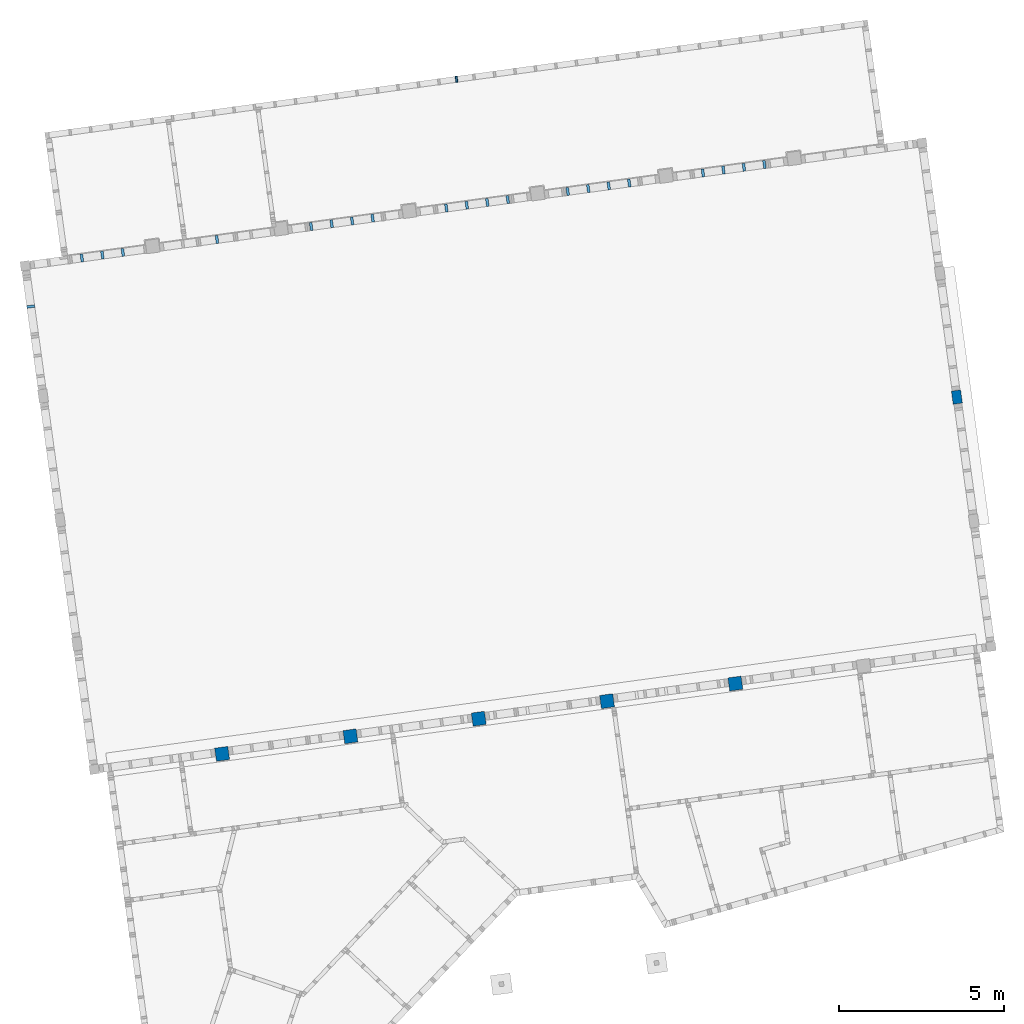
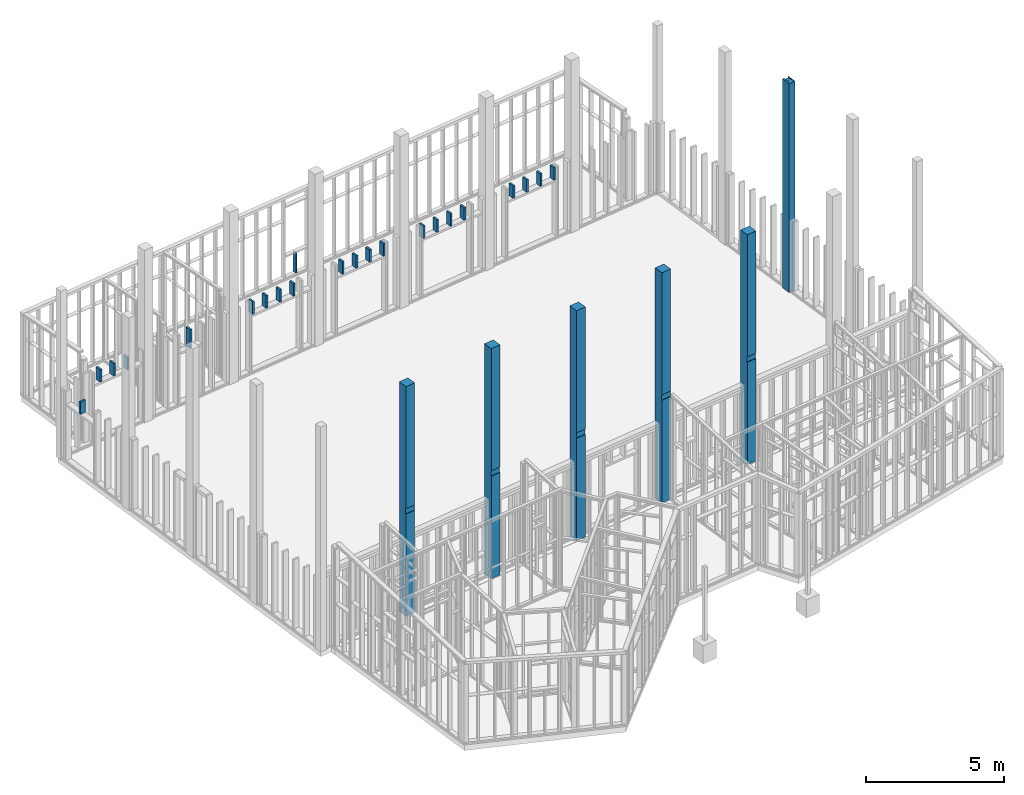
# One storey, part 9 of 24: 28 columns.
"""IFC2X3 building model written with IfcOpenShell, lengths in metres."""

import ifcopenshell
import ifcopenshell.guid

model = None  # the IFC model being written
_history = None  # IfcOwnerHistory: only IFC2X3 demands one
_inside = {}  # id of a spatial element -> (the spatial element, [elements in it])
_under = {}  # id of a project, library or spatial element -> (it, [spatial elements below it])
_declared = {}  # id of a project -> (the project, [libraries it declares])
_typed = {}  # id of a type object -> (the type object, [elements of that type])
_made_of = {}  # id of a material, layer set ... -> (it, [elements and type objects made of it])


def new_model(schema):
    """Start an empty IFC model of exactly this schema.

    Asked for "IFC4X3", IfcOpenShell would pick the latest addendum, in which some entities
    have other attributes; the version numbers below select the first issue.
    IFC2X3 requires an IfcOwnerHistory on every rooted entity: one is made here for all.
    """
    global model, _history
    if schema == "IFC4X3":
        model = ifcopenshell.file(schema_version=(4, 3, 0, 0))
    else:
        model = ifcopenshell.file(schema=schema)
    _inside.clear()
    _under.clear()
    _declared.clear()
    _typed.clear()
    _made_of.clear()
    _history = None
    if model.schema == "IFC2X3":
        org = make("IfcOrganization", Name="unknown")
        user = make(
            "IfcPersonAndOrganization",
            ThePerson=make("IfcPerson", FamilyName="unknown"),
            TheOrganization=org,
        )
        app = make(
            "IfcApplication",
            ApplicationDeveloper=org,
            Version="unknown",
            ApplicationFullName="unknown",
            ApplicationIdentifier="unknown",
        )
        _history = make(
            "IfcOwnerHistory",
            OwningUser=user,
            OwningApplication=app,
            ChangeAction="ADDED",
            CreationDate=0,
        )
    return model


def make(cls, **values):
    """One entity of the class cls with the attributes given. An attribute that is None is left unset."""
    return model.create_entity(
        cls, **{name: value for name, value in values.items() if value is not None}
    )


def entity(cls, *values):
    """Any entity or typed value of the class cls, its attributes in the order of the schema. None: left unset."""
    e = model.create_entity(cls)
    for i, value in enumerate(values):
        if value is not None:
            e[i] = value
    return e


def rooted(cls, **values):
    """An entity with a GlobalId (a new one), such as an element, a storey or a relation."""
    return make(cls, GlobalId=ifcopenshell.guid.new(), OwnerHistory=_history, **values)


def si_unit(unit_type, name, prefix=None):
    """IfcSIUnit, for example si_unit("LENGTHUNIT", "METRE", prefix="MILLI")."""
    return make("IfcSIUnit", UnitType=unit_type, Prefix=prefix, Name=name)


def converted_unit(unit_type, name, factor, base, dimensions=None, offset=None):
    """IfcConversionBasedUnit, such as the inch: factor (a typed value) times the base unit."""
    return make(
        "IfcConversionBasedUnit"
        if offset is None
        else "IfcConversionBasedUnitWithOffset",
        ConversionOffset=offset,
        Dimensions=None
        if dimensions is None
        else entity("IfcDimensionalExponents", *dimensions),
        UnitType=unit_type,
        Name=name,
        ConversionFactor=make(
            "IfcMeasureWithUnit", ValueComponent=factor, UnitComponent=base
        ),
    )


def derived_unit(unit_type, elements):
    """IfcDerivedUnit: a product of units, each with its exponent."""
    return make(
        "IfcDerivedUnit",
        Elements=[
            make("IfcDerivedUnitElement", Unit=unit, Exponent=power)
            for unit, power in elements
        ],
        UnitType=unit_type,
    )


def money_unit(currency):
    """IfcMonetaryUnit."""
    return make("IfcMonetaryUnit", Currency=currency)


def assignment(units):
    """IfcUnitAssignment: the units of a project."""
    return None if units is None else make("IfcUnitAssignment", Units=units)


def point(xyz):
    """IfcCartesianPoint."""
    return None if xyz is None else make("IfcCartesianPoint", Coordinates=xyz)


def direction(xyz):
    """IfcDirection."""
    return None if xyz is None else make("IfcDirection", DirectionRatios=xyz)


def frame(location, z_axis=None, x_axis=None):
    """IfcAxis2Placement3D, a coordinate frame: its origin and axes. An axis left out is left unset."""
    return make(
        "IfcAxis2Placement3D",
        Location=point(location),
        Axis=direction(z_axis),
        RefDirection=direction(x_axis),
    )


def frame_2d(location, x_axis=None):
    """IfcAxis2Placement2D, a coordinate frame in the plane: its origin and x axis."""
    return make(
        "IfcAxis2Placement2D", Location=point(location), RefDirection=direction(x_axis)
    )


def origin_with_axes():
    """The frame at (0, 0, 0) with the z axis (0, 0, 1) and the x axis (1, 0, 0) written out."""
    return frame((0.0, 0.0, 0.0), z_axis=(0.0, 0.0, 1.0), x_axis=(1.0, 0.0, 0.0))


def origin_2d_with_axis():
    """The frame at (0, 0) in the plane with the x axis (1, 0) written out."""
    return frame_2d((0.0, 0.0), x_axis=(1.0, 0.0))


def place(relative_to, where):
    """IfcLocalPlacement: puts the frame where relative to a parent placement (None: the world)."""
    return make(
        "IfcLocalPlacement", PlacementRelTo=relative_to, RelativePlacement=where
    )


def context(
    kind, dimensions, precision=None, world=None, true_north=None, identifier=None
):
    """IfcGeometricRepresentationContext, for example the 3D "Model" context."""
    return make(
        "IfcGeometricRepresentationContext",
        ContextIdentifier=identifier,
        ContextType=kind,
        CoordinateSpaceDimension=dimensions,
        Precision=precision,
        WorldCoordinateSystem=world,
        TrueNorth=true_north,
    )


def subcontext(parent, identifier, kind, view, scale=None):
    """IfcGeometricRepresentationSubContext, for example "Body" below "Model"."""
    return make(
        "IfcGeometricRepresentationSubContext",
        ContextIdentifier=identifier,
        ContextType=kind,
        ParentContext=parent,
        TargetScale=scale,
        TargetView=view,
    )


def project(units=None, contexts=None):
    """IfcProject with its units and contexts."""
    return rooted(
        "IfcProject",
        Name="project",
        RepresentationContexts=contexts,
        UnitsInContext=assignment(units),
    )


def spatial(cls, under=None, at=None, **own):
    """A site, building, storey or space (cls), placed at a placement, below another one or the project."""
    s = rooted(cls, ObjectPlacement=at, **own)
    if under is not None:
        _under.setdefault(under.id(), (under, []))[1].append(s)
    return s


def profile(cls, at=None, kind="AREA", **sizes):
    """A parametric profile (cls). Its sizes go by their IFC names, for example OverallWidth=200.0."""
    return make(cls, ProfileType=kind, Position=at, **sizes)


def rectangle(**sizes):
    """IfcRectangleProfileDef."""
    return profile("IfcRectangleProfileDef", **sizes)


def extrude(swept, where, along, depth):
    """IfcExtrudedAreaSolid: the profile swept, set in the frame where, extruded along a direction by depth."""
    return make(
        "IfcExtrudedAreaSolid",
        SweptArea=swept,
        Position=where,
        ExtrudedDirection=direction(along),
        Depth=depth,
    )


def boolean(op, a, b):
    """IfcBooleanResult of two solids."""
    return make("IfcBooleanResult", Operator=op, FirstOperand=a, SecondOperand=b)


def faces_of(points, faces, orient=None, outer=None):
    """IfcFace entities. A face is a list of loops; a loop is a list of indices into points, from 0.

    orient and outer hold one flag for each loop. By default every Orientation is true, the
    first loop of a face is its IfcFaceOuterBound and the others are IfcFaceBound.
    """
    made = []
    for i, loops in enumerate(faces):
        bounds = []
        for j, loop in enumerate(loops):
            is_outer = j == 0 if outer is None else outer[i][j]
            bounds.append(
                make(
                    "IfcFaceOuterBound" if is_outer else "IfcFaceBound",
                    Bound=make("IfcPolyLoop", Polygon=[points[k] for k in loop]),
                    Orientation=True if orient is None else orient[i][j],
                )
            )
        made.append(make("IfcFace", Bounds=bounds))
    return made


def faceted_brep(points, faces, orient=None, outer=None, voids=None):
    """IfcFacetedBrep: a solid bounded by flat faces; with voids (closed shells), ...WithVoids."""
    shared = [point(p) for p in points]
    hull = make("IfcClosedShell", CfsFaces=faces_of(shared, faces, orient, outer))
    if voids is None:
        return make("IfcFacetedBrep", Outer=hull)
    return make(
        "IfcFacetedBrepWithVoids",
        Outer=hull,
        Voids=[
            make(cls, CfsFaces=faces_of(shared, fs, o, b)) for cls, fs, o, b in voids
        ],
    )


def shape(context_of_items, identifier, shape_type, items):
    """IfcShapeRepresentation: the items that make up one representation, for example the "Body"."""
    return make(
        "IfcShapeRepresentation",
        ContextOfItems=context_of_items,
        RepresentationIdentifier=identifier,
        RepresentationType=shape_type,
        Items=items,
    )


def material(Name=None, Category=None):
    """IfcMaterial."""
    return make("IfcMaterial", Name=Name, Category=Category)


def made_of(thing, what):
    """Note that an element or type object is made of a material, layer set ...; save() writes the relation."""
    if what is not None:
        _made_of.setdefault(what.id(), (what, []))[1].append(thing)
    return thing


def type_object(cls, material=None, **own):
    """A type object (cls), such as IfcWallType, which elements share."""
    return made_of(rooted(cls, **own), material)


def element(
    cls,
    number,
    at=None,
    inside=None,
    cuts=None,
    type_object=None,
    material=None,
    context=None,
    identifier="Body",
    shape_type=None,
    held_by="IfcProductDefinitionShape",
    body=None,
    shapes=None,
    **own,
):
    """One element of the class cls, such as IfcWall. Its Tag is "e" and its number.

    at: its placement. inside: the storey or other place that contains it. cuts: it is an
    opening in that element (IfcRelVoidsElement). A single representation is given by context,
    identifier, shape_type and body (its items); several are given by shapes. held_by: the class
    of the entity that holds the representations. save() writes the other relations.
    """
    e = rooted(cls, Tag="e%d" % number, ObjectPlacement=at, **own)
    if body is not None:
        shapes = [shape(context, identifier, shape_type, body)]
    if shapes is not None:
        e.Representation = make(held_by, Representations=shapes)
    if inside is not None:
        _inside.setdefault(inside.id(), (inside, []))[1].append(e)
    if cuts is not None:
        rooted(
            "IfcRelVoidsElement", RelatingBuildingElement=cuts, RelatedOpeningElement=e
        )
    if type_object is not None:
        _typed.setdefault(type_object.id(), (type_object, []))[1].append(e)
    return made_of(e, material)


def aggregate(whole, parts):
    """IfcRelAggregates: a whole, such as a stair, and the parts it consists of."""
    return rooted("IfcRelAggregates", RelatingObject=whole, RelatedObjects=parts)


def save(model, path):
    """Write the relations noted so far, then the file.

    IfcRelAggregates (storeys below a building ...), IfcRelContainedInSpatialStructure (elements
    in a storey), IfcRelDefinesByType, IfcRelAssociatesMaterial and IfcRelDeclares: one each for
    every whole, place, type object, material and project.
    """
    for whole, parts in _under.values():
        aggregate(whole, parts)
    for where, things in _inside.values():
        rooted(
            "IfcRelContainedInSpatialStructure",
            RelatedElements=things,
            RelatingStructure=where,
        )
    for kind, things in _typed.values():
        rooted("IfcRelDefinesByType", RelatedObjects=things, RelatingType=kind)
    for what, things in _made_of.values():
        rooted("IfcRelAssociatesMaterial", RelatedObjects=things, RelatingMaterial=what)
    for by, libraries in _declared.values():
        rooted("IfcRelDeclares", RelatingContext=by, RelatedDefinitions=libraries)
    model.write(path)


model = new_model("IFC2X3")

# Units and contexts
model_context = context("Model", 3, precision=1e-05, world=origin_with_axes(), true_north=direction((0.0, 1.0)))
body_context = subcontext(model_context, "Body", "Model", "MODEL_VIEW")
ifc_project = project(units=[si_unit("LENGTHUNIT", "METRE"), si_unit("AREAUNIT", "SQUARE_METRE"), si_unit("VOLUMEUNIT", "CUBIC_METRE"), converted_unit("PLANEANGLEUNIT", "DEGREE", entity("IfcPlaneAngleMeasure", 0.0174532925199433), si_unit("PLANEANGLEUNIT", "RADIAN"), dimensions=[0, 0, 0, 0, 0, 0, 0]), money_unit("EUR"), converted_unit("TIMEUNIT", "Year", entity("IfcTimeMeasure", 31557600.0), si_unit("TIMEUNIT", "SECOND"), dimensions=[0, 0, 1, 0, 0, 0, 0]), si_unit("MASSUNIT", "GRAM", prefix="KILO"), si_unit("THERMODYNAMICTEMPERATUREUNIT", "DEGREE_CELSIUS"), si_unit("LUMINOUSINTENSITYUNIT", "LUMEN"), si_unit("ENERGYUNIT", "JOULE", prefix="MEGA"), derived_unit("THERMALCONDUCTANCEUNIT", [(si_unit("POWERUNIT", "WATT"), 1), (si_unit("LENGTHUNIT", "METRE"), -1), (si_unit("THERMODYNAMICTEMPERATUREUNIT", "KELVIN"), -1)]), derived_unit("SPECIFICHEATCAPACITYUNIT", [(si_unit("ENERGYUNIT", "JOULE"), 1), (si_unit("MASSUNIT", "GRAM", prefix="KILO"), -1), (si_unit("THERMODYNAMICTEMPERATUREUNIT", "KELVIN"), -1)]), derived_unit("MASSDENSITYUNIT", [(si_unit("MASSUNIT", "GRAM", prefix="KILO"), 1), (si_unit("VOLUMEUNIT", "CUBIC_METRE"), -1)])], contexts=[model_context])

# Site, building, storey
site_placement = place(None, origin_with_axes())
site = spatial("IfcSite", under=ifc_project, at=site_placement, Name="Gelände", CompositionType="ELEMENT")
building_placement = place(site_placement, origin_with_axes())
building = spatial("IfcBuilding", under=site, at=building_placement, Name="Gebäude", CompositionType="ELEMENT")
storey_placement = place(building_placement, origin_with_axes())
storey = spatial("IfcBuildingStorey", under=building, at=storey_placement, Name="EG", CompositionType="ELEMENT", Elevation=0.0)

# Columns
ifc_material_1 = material(Name="Holz, Brettschichtholz")
column_type_1 = type_object("IfcColumnType", Name="Holz, Brettschichtholz 400 x 400", PredefinedType="NOTDEFINED")
column_1_placement = place(storey_placement, frame((105.9718212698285, -148.421011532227, -0.1680000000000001), z_axis=(0.0, 0.0, 1.0), x_axis=(0.990748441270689, 0.1357111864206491, 0.0)))
element("IfcColumn", 1, at=column_1_placement, inside=storey, type_object=column_type_1, material=ifc_material_1, Name="Stütze-011", context=body_context, shape_type="CSG", body=[
    boolean("DIFFERENCE", extrude(rectangle(XDim=0.4, YDim=0.4, at=origin_2d_with_axis()), origin_with_axes(), (0.0, 0.0, 1.0), 10.1769335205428), faceted_brep([(0.2000000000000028, -0.1799999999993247, 4.534648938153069), (0.2000000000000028, -0.1799999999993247, 4.774648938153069), (0.1999999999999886, -0.1999999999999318, 4.774648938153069), (0.1999999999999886, -0.1999999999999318, 4.534648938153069), (-0.2000000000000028, -0.1799999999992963, 4.534648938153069), (-0.2000000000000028, -0.1799999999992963, 4.774648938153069), (-0.2000000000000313, -0.1999999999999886, 4.774648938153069), (-0.2000000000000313, -0.1999999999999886, 4.534648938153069)], [[[0, 1, 2, 3]], [[1, 0, 4, 5]], [[6, 2, 1, 5]], [[7, 3, 2, 6]], [[0, 3, 7, 4]], [[4, 7, 6, 5]]])),
])
column_2_placement = place(storey_placement, frame((98.21567633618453, -149.4834362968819, -0.1680000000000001), z_axis=(0.0, 0.0, 1.0), x_axis=(0.990748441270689, 0.1357111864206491, 0.0)))
element("IfcColumn", 2, at=column_2_placement, inside=storey, type_object=column_type_1, material=ifc_material_1, Name="Stütze-011", context=body_context, shape_type="CSG", body=[
    boolean("DIFFERENCE", extrude(rectangle(XDim=0.4, YDim=0.4, at=origin_2d_with_axis()), origin_with_axes(), (0.0, 0.0, 1.0), 10.1769335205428), faceted_brep([(0.1999999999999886, -0.1799999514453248, 4.534648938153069), (0.1999999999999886, -0.1799999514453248, 4.774648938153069), (0.2000000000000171, -0.1999999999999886, 4.774648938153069), (0.2000000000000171, -0.1999999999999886, 4.534648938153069), (-0.1999999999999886, -0.1799999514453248, 4.534648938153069), (-0.1999999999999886, -0.1799999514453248, 4.774648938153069), (-0.1999999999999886, -0.1999999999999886, 4.774648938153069), (-0.1999999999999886, -0.1999999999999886, 4.534648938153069)], [[[0, 1, 2, 3]], [[1, 0, 4, 5]], [[6, 2, 1, 5]], [[7, 3, 2, 6]], [[0, 3, 7, 4]], [[4, 7, 6, 5]]])),
])
column_3_placement = place(storey_placement, frame((102.0937487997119, -148.952223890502, -0.1680000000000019), z_axis=(0.0, 0.0, 1.0), x_axis=(0.990748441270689, 0.1357111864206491, 0.0)))
element("IfcColumn", 3, at=column_3_placement, inside=storey, type_object=column_type_1, material=ifc_material_1, Name="Stütze-011", context=body_context, shape_type="CSG", body=[
    boolean("DIFFERENCE", extrude(rectangle(XDim=0.4, YDim=0.4, at=origin_2d_with_axis()), origin_with_axes(), (0.0, 0.0, 1.0), 10.17693352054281), faceted_brep([(0.1999999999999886, -0.1799999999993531, 4.534648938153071), (0.1999999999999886, -0.1799999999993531, 4.774648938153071), (0.2000000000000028, -0.1999999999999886, 4.774648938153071), (0.2000000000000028, -0.1999999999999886, 4.534648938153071), (-0.2000000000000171, -0.1799999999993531, 4.534648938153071), (-0.2000000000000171, -0.1799999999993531, 4.774648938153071), (-0.2000000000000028, -0.1999999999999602, 4.774648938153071), (-0.2000000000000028, -0.1999999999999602, 4.534648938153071)], [[[0, 1, 2, 3]], [[1, 0, 4, 5]], [[6, 2, 1, 5]], [[7, 3, 2, 6]], [[0, 3, 7, 4]], [[4, 7, 6, 5]]])),
])
column_4_placement = place(storey_placement, frame((94.3376038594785, -150.0146486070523, -0.1680000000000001), z_axis=(0.0, 0.0, 1.0), x_axis=(0.990748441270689, 0.1357111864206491, 0.0)))
element("IfcColumn", 4, at=column_4_placement, inside=storey, type_object=column_type_1, material=ifc_material_1, Name="Stütze-011", context=body_context, shape_type="CSG", body=[
    boolean("DIFFERENCE", extrude(rectangle(XDim=0.4, YDim=0.4, at=origin_2d_with_axis()), origin_with_axes(), (0.0, 0.0, 1.0), 10.1769335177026), faceted_brep([(0.2000000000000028, -0.1799999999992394, 4.534648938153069), (0.2000000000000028, -0.1799999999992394, 4.774648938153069), (0.2000000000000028, -0.1999999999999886, 4.774648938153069), (0.2000000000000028, -0.1999999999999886, 4.534648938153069), (-0.2000000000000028, -0.1799999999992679, 4.534648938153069), (-0.2000000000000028, -0.1799999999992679, 4.774648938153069), (-0.2000000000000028, -0.2000000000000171, 4.774648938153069), (-0.2000000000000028, -0.2000000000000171, 4.534648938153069)], [[[0, 1, 2, 3]], [[1, 0, 4, 5]], [[6, 2, 1, 5]], [[7, 3, 2, 6]], [[0, 3, 7, 4]], [[4, 7, 6, 5]]])),
])
column_5_placement = place(storey_placement, frame((90.4595313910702, -150.5458609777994, -0.1680000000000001), z_axis=(0.0, 0.0, 1.0), x_axis=(0.990748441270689, 0.1357111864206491, 0.0)))
element("IfcColumn", 5, at=column_5_placement, inside=storey, type_object=column_type_1, material=ifc_material_1, Name="Stütze-011", context=body_context, shape_type="CSG", body=[
    boolean("DIFFERENCE", extrude(rectangle(XDim=0.4, YDim=0.4, at=origin_2d_with_axis()), origin_with_axes(), (0.0, 0.0, 1.0), 10.1769335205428), faceted_brep([(0.2000000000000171, -0.179999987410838, 4.534648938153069), (0.2000000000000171, -0.179999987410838, 4.774648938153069), (0.2000000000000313, -0.1999999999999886, 4.774648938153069), (0.2000000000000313, -0.1999999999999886, 4.534648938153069), (-0.1999999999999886, -0.1799999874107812, 4.534648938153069), (-0.1999999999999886, -0.1799999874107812, 4.774648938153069), (-0.1999999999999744, -0.2000000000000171, 4.774648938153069), (-0.1999999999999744, -0.2000000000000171, 4.534648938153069)], [[[0, 1, 2, 3]], [[1, 0, 4, 5]], [[6, 2, 1, 5]], [[7, 3, 2, 6]], [[0, 3, 7, 4]], [[4, 7, 6, 5]]])),
])
column_type_2 = type_object("IfcColumnType", Name="Holz, Brettschichtholz 280 x 400", PredefinedType="NOTDEFINED")
column_6_placement = place(storey_placement, frame((112.6672464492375, -139.7622605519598, -0.1680000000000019), z_axis=(0.0, 0.0, 1.0), x_axis=(-0.9907484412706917, -0.1357111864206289, 0.0)))
element("IfcColumn", 6, at=column_6_placement, inside=storey, type_object=column_type_2, material=ifc_material_1, Name="Stütze-011", context=body_context, shape_type="CSG", body=[
    boolean("DIFFERENCE", extrude(rectangle(XDim=0.28, YDim=0.4, at=origin_2d_with_axis()), frame((0.0, 0.0, 0.0), z_axis=(0.0, 0.0, -1.0), x_axis=(-1.0, 0.0, 0.0)), (0.0, 0.0, -1.0), 9.241815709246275), faceted_brep([(0.05796368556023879, -0.2000000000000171, 9.241815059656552), (0.05796544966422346, 0.1999998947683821, 9.241815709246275), (-0.1220345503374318, 0.1999999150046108, 9.241815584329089), (-0.1220363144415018, -0.1999999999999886, 9.241815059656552), (0.0579636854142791, -0.2000000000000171, 9.177016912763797), (-0.1220363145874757, -0.2000000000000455, 9.177016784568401)], [[[0, 1, 2, 3]], [[1, 0, 4]], [[2, 1, 4, 5]], [[3, 2, 5]], [[4, 0, 3, 5]]])),
])
ifc_material_2 = material(Name="Bauholz")
column_type_3 = type_object("IfcColumnType", Name="Bauholz 80 x 240", PredefinedType="NOTDEFINED")
for number, where, z_axis, x_axis in (
    (7, (95.00831232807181, -134.3527288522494, 2.48), (0.0, 0.0, 1.0), (0.9907484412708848, 0.1357111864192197, 0.0)),
    (8, (97.85529659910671, -133.9627533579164, 2.48), (0.0, 0.0, 1.0), (0.9907484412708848, 0.1357111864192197, 0.0)),
    (9, (86.84029732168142, -135.4715708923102, 2.48), (0.0, 0.0, 1.0), (0.9907484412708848, 0.1357111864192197, 0.0)),
    (10, (94.38909455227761, -134.4375483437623, 2.48), (0.0, 0.0, 1.0), (0.9907484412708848, 0.1357111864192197, 0.0)),
    (11, (98.47451437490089, -133.8779338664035, 2.48), (0.0, 0.0, 1.0), (0.9907484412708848, 0.1357111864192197, 0.0)),
    (12, (86.22107954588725, -135.5563903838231, 2.48), (0.0, 0.0, 1.0), (0.9907484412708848, 0.1357111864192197, 0.0)),
    (13, (106.2306593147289, -132.8155091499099, 2.48), (0.0, 0.0, 1.0), (0.9907484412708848, 0.1357111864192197, 0.0)),
    (14, (102.145239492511, -133.3751236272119, 2.48), (0.0, 0.0, 1.0), (0.9907484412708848, 0.1357111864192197, 0.0)),
):
    element("IfcColumn", number, at=place(storey_placement, frame(where, z_axis=z_axis, x_axis=x_axis)), inside=storey, type_object=column_type_3, material=ifc_material_2, Name="Stütze-018", context=body_context, shape_type="SweptSolid", body=[
        extrude(rectangle(XDim=0.08, YDim=0.24, at=origin_2d_with_axis()), origin_with_axes(), (0.0, 0.0, 1.0), 0.5519999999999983),
    ])
column_7_placement = place(storey_placement, frame((90.30508687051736, -134.9969693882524, 2.215), z_axis=(0.0, 0.0, 1.0), x_axis=(0.9907484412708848, 0.1357111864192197, 0.0)))
element("IfcColumn", 15, at=column_7_placement, inside=storey, type_object=column_type_3, material=ifc_material_2, Name="Stütze-018", context=body_context, shape_type="SweptSolid", body=[
    extrude(rectangle(XDim=0.08, YDim=0.24, at=origin_2d_with_axis()), origin_with_axes(), (0.0, 0.0, 1.0), 0.8169999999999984),
])
for number, where, z_axis, x_axis in (
    (16, (105.6114415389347, -132.9003286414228, 2.48), (0.0, 0.0, 1.0), (0.9907484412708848, 0.1357111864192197, 0.0)),
    (17, (104.9922237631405, -132.9851481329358, 2.48), (0.0, 0.0, 1.0), (0.9907484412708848, 0.1357111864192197, 0.0)),
    (18, (102.7644572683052, -133.2903041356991, 2.48), (0.0, 0.0, 1.0), (0.9907484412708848, 0.1357111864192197, 0.0)),
    (19, (93.15065900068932, -134.6071873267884, 2.48), (0.0, 0.0, 1.0), (0.9907484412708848, 0.1357111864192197, 0.0)),
    (20, (100.9068039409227, -133.544762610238, 2.48), (0.0, 0.0, 1.0), (0.9907484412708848, 0.1357111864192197, 0.0)),
    (21, (106.849877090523, -132.7306896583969, 2.48), (0.0, 0.0, 1.0), (0.9907484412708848, 0.1357111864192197, 0.0)),
    (22, (99.09373215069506, -133.7931143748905, 2.48), (0.0, 0.0, 1.0), (0.9907484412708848, 0.1357111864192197, 0.0)),
    (23, (101.5260217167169, -133.4599431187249, 2.48), (0.0, 0.0, 1.0), (0.9907484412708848, 0.1357111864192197, 0.0)),
    (24, (87.45951509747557, -135.3867514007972, 2.48), (0.0, 0.0, 1.0), (0.9907484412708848, 0.1357111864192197, 0.0)),
    (25, (93.76987677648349, -134.5223678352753, 2.48), (0.0, 0.0, 1.0), (0.9907484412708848, 0.1357111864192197, 0.0)),
    (26, (97.23607882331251, -134.0475728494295, 2.48), (0.0, 0.0, 1.0), (0.9907484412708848, 0.1357111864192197, 0.0)),
):
    element("IfcColumn", number, at=place(storey_placement, frame(where, z_axis=z_axis, x_axis=x_axis)), inside=storey, type_object=column_type_3, material=ifc_material_2, Name="Stütze-018", context=body_context, shape_type="SweptSolid", body=[
        extrude(rectangle(XDim=0.08, YDim=0.24, at=origin_2d_with_axis()), origin_with_axes(), (0.0, 0.0, 1.0), 0.5519999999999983),
    ])
column_8_placement = place(storey_placement, frame((84.67490777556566, -137.0258176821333, 2.48), z_axis=(0.0, 0.0, 1.0), x_axis=(-0.1357111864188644, 0.9907484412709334, 0.0)))
element("IfcColumn", 27, at=column_8_placement, inside=storey, type_object=column_type_3, material=ifc_material_2, Name="Stütze-018", context=body_context, shape_type="SweptSolid", body=[
    extrude(rectangle(XDim=0.08, YDim=0.24, at=origin_2d_with_axis()), origin_with_axes(), (0.0, 0.0, 1.0), 0.5519999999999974),
])
column_type_4 = type_object("IfcColumnType", Name="Bauholz 60 x 180", PredefinedType="NOTDEFINED")
column_9_placement = place(storey_placement, frame((97.5438329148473, -130.1573162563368, 0.04999999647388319), z_axis=(0.0, 0.0, 1.0), x_axis=(0.9907484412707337, 0.1357111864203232, 0.0)))
element("IfcColumn", 28, at=column_9_placement, inside=storey, type_object=column_type_4, material=ifc_material_2, Name="Stütze-018", context=body_context, shape_type="SweptSolid", body=[
    extrude(rectangle(XDim=0.06, YDim=0.18, at=origin_2d_with_axis()), origin_with_axes(), (0.0, 0.0, 1.0), 0.8900000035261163),
])

save(model, "model.ifc")
